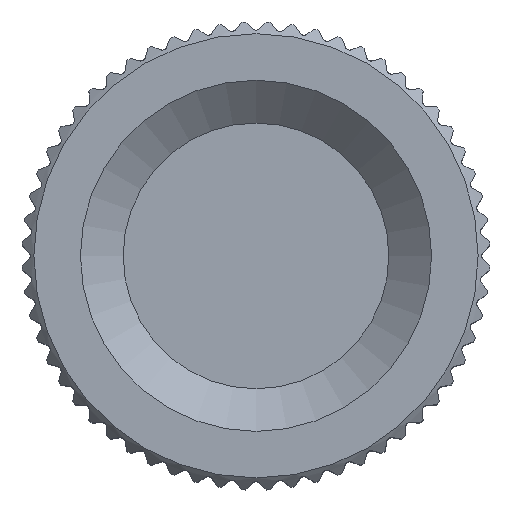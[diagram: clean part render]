
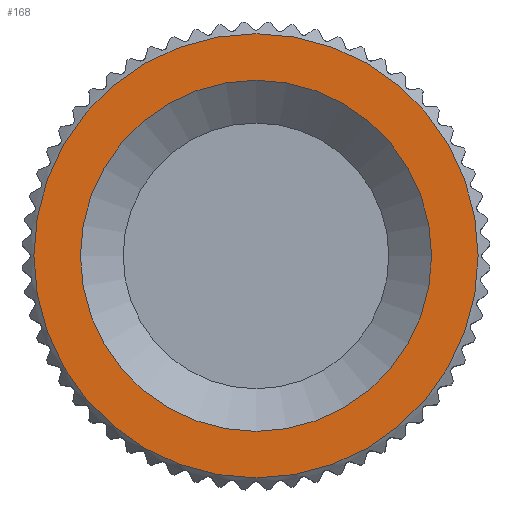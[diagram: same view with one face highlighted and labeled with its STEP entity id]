
A CAD part, top view. The second image highlights one B-rep face of the part: STEP entity #168.
In plain terms, the highlighted planar face has unit normal (0, 0, 1).
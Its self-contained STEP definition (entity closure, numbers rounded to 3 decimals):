
#58=CARTESIAN_POINT('',(7.35,0.,14.6));
#59=VERTEX_POINT('',#58);
#76=CARTESIAN_POINT('',(0.,0.,14.6));
#77=DIRECTION('',(1.,-0.,-0.));
#78=DIRECTION('',(0.,-0.,1.));
#79=AXIS2_PLACEMENT_3D('',#76,#78,#77);
#80=CIRCLE('',#79,7.35);
#81=EDGE_CURVE('',#59,#59,#80,.T.);
#149=CARTESIAN_POINT('',(0.,0.,14.6));
#150=DIRECTION('',(1.,0.,0.));
#151=DIRECTION('',(0.,0.,-1.));
#152=AXIS2_PLACEMENT_3D('',#149,#151,#150);
#153=PLANE('',#152);
#154=CARTESIAN_POINT('',(9.3,0.,14.6));
#155=VERTEX_POINT('',#154);
#156=CARTESIAN_POINT('',(0.,0.,14.6));
#157=DIRECTION('',(1.,0.,0.));
#158=DIRECTION('',(0.,0.,-1.));
#159=AXIS2_PLACEMENT_3D('',#156,#158,#157);
#160=CIRCLE('',#159,9.3);
#161=EDGE_CURVE('',#155,#155,#160,.T.);
#162=ORIENTED_EDGE('E22',*,*,#161,.T.);
#163=EDGE_LOOP('',(#162));
#164=FACE_OUTER_BOUND('',#163,.F.);
#165=ORIENTED_EDGE('',*,*,#81,.T.);
#166=EDGE_LOOP('',(#165));
#167=FACE_BOUND('',#166,.F.);
#168=ADVANCED_FACE('F5',(#164,#167),#153,.F.);
